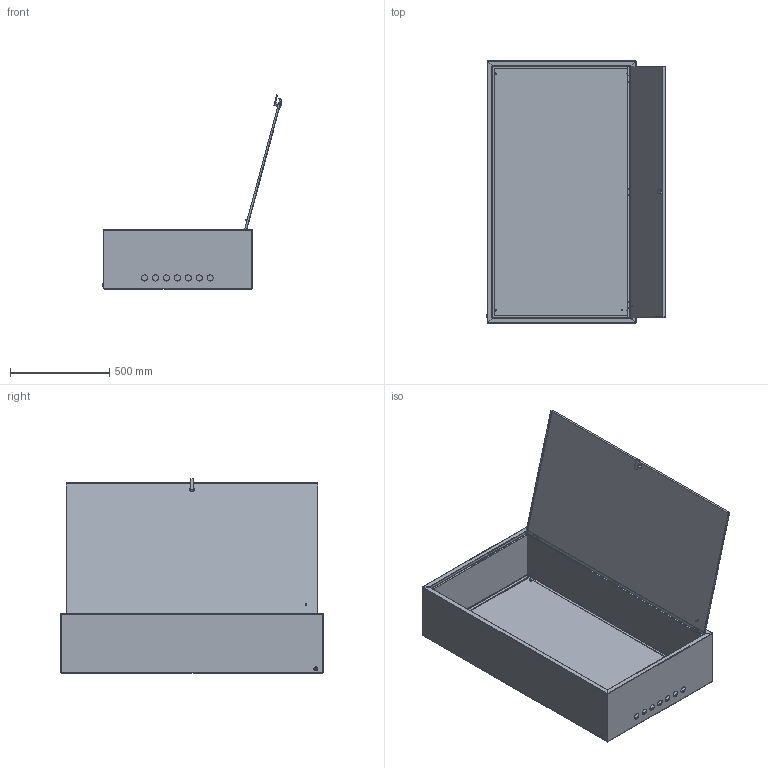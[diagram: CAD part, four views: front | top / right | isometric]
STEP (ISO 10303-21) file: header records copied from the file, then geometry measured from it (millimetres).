
FILE_DESCRIPTION (( 'STEP AP214' ), '1' );
FILE_NAME ('ﾙﾌﾏ-07_IP31.STEP', '2020-03-18T08:49:59', ( '' ), ( '' ), 'SwSTEP 2.0', 'SolidWorks 2018', '' );
FILE_SCHEMA (( 'AUTOMOTIVE_DESIGN' ));
Length unit declared in the file: millimetre
Products named in the file (12): Ïåòëÿ_Êîðïóñà; ﾄ粢07; 沓艜_眈翴錪07; Ãàéêà_Ì8; Çàäíÿÿ_Ïàíåëü07; Êîðïóñ_Ëåâûé07; Ãàéêà_Ì6; 暑痫篑_橡噔07; ч斁熿P31; ﾙﾌﾏ-07_IP31; ÄâåðüÑÏåòëÿìè07; Ïåòëÿ_Äâåðè
Assembly tree (18 placements, depth 3):
  ﾙﾌﾏ-07_IP31
    Êîðïóñ_Ëåâûé07
    暑痫篑_橡噔07
    Çàäíÿÿ_Ïàíåëü07
    Ïåòëÿ_Êîðïóñà  x3
    ÄâåðüÑÏåòëÿìè07
      ﾄ粢07
      Ïåòëÿ_Äâåðè  x3
    ч斁熿P31
    沓艜_眈翴錪07
    Ãàéêà_Ì6  x4
    Ãàéêà_Ì8
Bounding box: 903.66 x 1320 x 977.75 mm (x, y, z)
Volume: 4495352.1 mm3; surface area: 8622145.6 mm2
Topology: 17 solids, 17 shells, 668 faces, 1510 edges, 888 vertices
Faces by surface type: plane 369, cylinder 207, cone 52, bspline 36, torus 4
Entity records: 15702 total; most frequent: CARTESIAN_POINT 4414, DIRECTION 2180, ORIENTED_EDGE 2148, EDGE_CURVE 1074, AXIS2_PLACEMENT_3D 738, LINE 704, VECTOR 704, VERTEX_POINT 628
